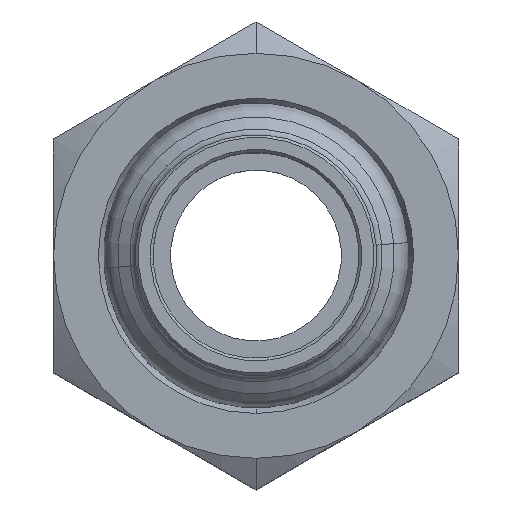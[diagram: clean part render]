
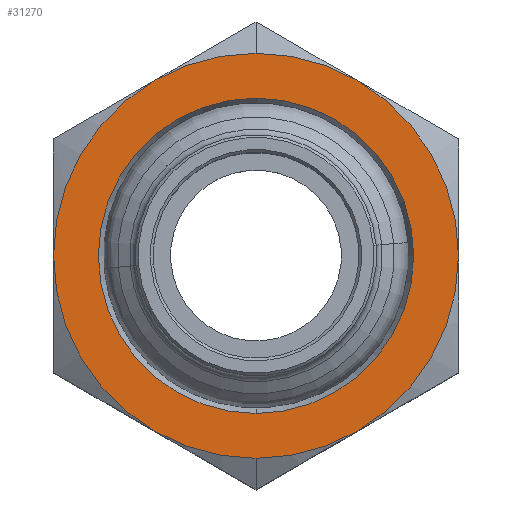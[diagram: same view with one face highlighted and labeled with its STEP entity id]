
A CAD part, top view. The second image highlights one B-rep face of the part: STEP entity #31270.
In plain terms, the highlighted planar face has unit normal (0, 0, 1) as drawn and (1, 0, 0) by its records, which use the part's own axes.
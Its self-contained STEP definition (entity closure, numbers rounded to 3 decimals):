
#18350=CARTESIAN_POINT('',(-57.194,103.88,0.));
#18360=DIRECTION('',(1.,0.,0.));
#18370=DIRECTION('',(0.,-1.,0.));
#18380=AXIS2_PLACEMENT_3D('',#18350,#18360,#18370);
#18390=CIRCLE('',#18380,15.);
#18400=CARTESIAN_POINT('',(-57.194,116.871,
-7.5));
#18410=VERTEX_POINT('',#18400);
#18420=CARTESIAN_POINT('',(-57.194,118.88,0.));
#18430=VERTEX_POINT('',#18420);
#18440=EDGE_CURVE('',#18410,#18430,#18390,.T.);
#19530=CARTESIAN_POINT('',(-57.194,103.88,15.));
#19540=VERTEX_POINT('',#19530);
#19590=CARTESIAN_POINT('',(-57.194,90.89,
7.5));
#19600=VERTEX_POINT('',#19590);
#19610=EDGE_CURVE('',#19540,#19600,#18390,.T.);
#20610=CARTESIAN_POINT('',(-57.194,90.89,
-7.5));
#20620=VERTEX_POINT('',#20610);
#20690=CARTESIAN_POINT('',(-57.194,88.88,
0.));
#20700=VERTEX_POINT('',#20690);
#20730=EDGE_CURVE('',#20700,#20620,#18390,.T.);
#26850=CARTESIAN_POINT('',(-57.194,103.88,-15.));
#26860=VERTEX_POINT('',#26850);
#29040=CARTESIAN_POINT('',(-57.194,116.871,
7.5));
#29050=VERTEX_POINT('',#29040);
#30920=CARTESIAN_POINT('',(-57.194,96.38,0.));
#30930=DIRECTION('',(1.,0.,0.));
#30940=DIRECTION('',(0.,-1.,0.));
#30950=AXIS2_PLACEMENT_3D('',#30920,#30930,#30940);
#30960=PLANE('',#30950);
#30970=EDGE_CURVE('',#19600,#20700,#18390,.T.);
#30980=ORIENTED_EDGE('',*,*,#30970,.T.);
#30990=ORIENTED_EDGE('',*,*,#19610,.T.);
#31000=EDGE_CURVE('',#29050,#19540,#18390,.T.);
#31010=ORIENTED_EDGE('',*,*,#31000,.T.);
#31020=EDGE_CURVE('',#18430,#29050,#18390,.T.);
#31030=ORIENTED_EDGE('',*,*,#31020,.T.);
#31040=ORIENTED_EDGE('',*,*,#18440,.T.);
#31050=EDGE_CURVE('',#26860,#18410,#18390,.T.);
#31060=ORIENTED_EDGE('',*,*,#31050,.T.);
#31070=EDGE_CURVE('',#20620,#26860,#18390,.T.);
#31080=ORIENTED_EDGE('',*,*,#31070,.T.);
#31090=ORIENTED_EDGE('',*,*,#20730,.T.);
#31100=EDGE_LOOP('',(#31090,#31080,#31060,#31040,#31030,#31010,#30990,
#30980));
#31110=FACE_OUTER_BOUND('',#31100,.T.);
#31120=CARTESIAN_POINT('',(-57.194,103.88,0.));
#31130=DIRECTION('',(1.,0.,0.));
#31140=DIRECTION('',(0.,-1.,0.));
#31150=AXIS2_PLACEMENT_3D('',#31120,#31130,#31140);
#31160=CIRCLE('',#31150,11.677);
#31170=CARTESIAN_POINT('',(-57.194,115.558,
0.));
#31180=VERTEX_POINT('',#31170);
#31190=CARTESIAN_POINT('',(-57.194,92.203,
0.));
#31200=VERTEX_POINT('',#31190);
#31210=EDGE_CURVE('',#31180,#31200,#31160,.T.);
#31220=ORIENTED_EDGE('',*,*,#31210,.F.);
#31230=EDGE_CURVE('',#31200,#31180,#31160,.T.);
#31240=ORIENTED_EDGE('',*,*,#31230,.F.);
#31250=EDGE_LOOP('',(#31240,#31220));
#31260=FACE_BOUND('',#31250,.T.);
#31270=ADVANCED_FACE('',(#31110,#31260),#30960,.T.);
